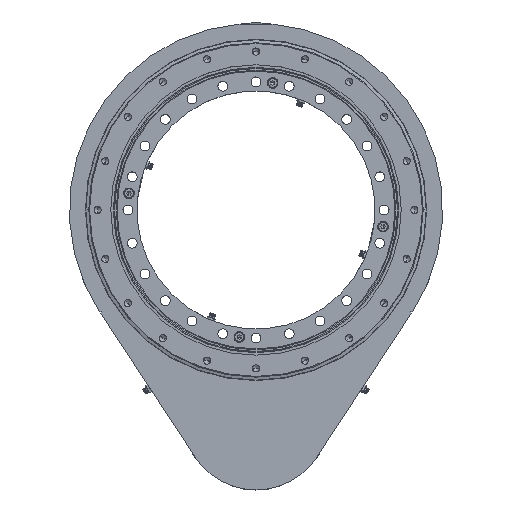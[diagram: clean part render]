
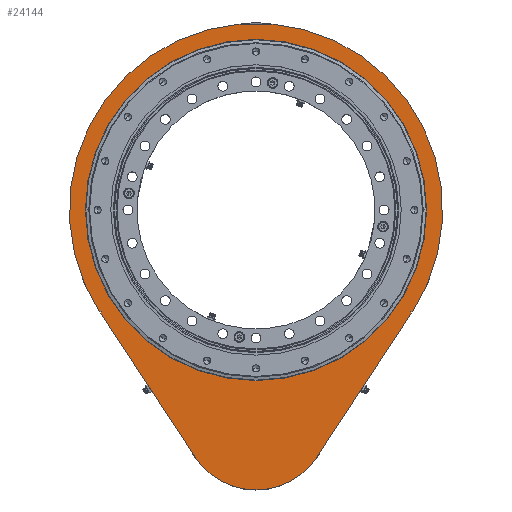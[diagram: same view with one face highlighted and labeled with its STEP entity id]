
A CAD part, top view. The second image highlights one B-rep face of the part: STEP entity #24144.
In plain terms, the highlighted planar face has unit normal (0, 0, 1).
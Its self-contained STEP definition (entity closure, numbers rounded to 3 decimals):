
#608=DIRECTION('',(0.978,0.207,0.));
#609=VECTOR('',#608,2.834);
#610=CARTESIAN_POINT('',(222.359,-145.981,82.));
#611=LINE('',#610,#609);
#615=DIRECTION('',(-0.203,0.979,0.));
#616=VECTOR('',#615,2.834);
#617=CARTESIAN_POINT('',(222.934,-148.756,82.));
#618=LINE('',#617,#616);
#622=DIRECTION('',(0.549,0.836,0.));
#623=VECTOR('',#622,246.274);
#624=CARTESIAN_POINT('',(87.774,-354.626,82.));
#625=LINE('',#624,#623);
#629=CARTESIAN_POINT('',(0.,-297.,82.));
#630=DIRECTION('',(0.,0.,1.));
#631=DIRECTION('',(-0.836,-0.549,0.));
#632=AXIS2_PLACEMENT_3D('',#629,#630,#631);
#637=DIRECTION('',(0.549,-0.836,0.));
#638=VECTOR('',#637,246.274);
#639=CARTESIAN_POINT('',(-222.934,-148.756,82.));
#640=LINE('',#639,#638);
#644=DIRECTION('',(-0.203,-0.979,0.));
#645=VECTOR('',#644,2.834);
#646=CARTESIAN_POINT('',(-222.359,-145.981,82.));
#647=LINE('',#646,#645);
#651=DIRECTION('',(0.978,-0.207,0.));
#652=VECTOR('',#651,2.834);
#653=CARTESIAN_POINT('',(-225.132,-145.395,82.));
#654=LINE('',#653,#652);
#658=CARTESIAN_POINT('',(0.,0.,82.));
#659=DIRECTION('',(0.,0.,1.));
#660=DIRECTION('',(0.84,-0.543,0.));
#661=AXIS2_PLACEMENT_3D('',#658,#659,#660);
#1961=CARTESIAN_POINT('',(0.,0.,82.));
#1962=DIRECTION('',(0.,0.,-1.));
#1963=DIRECTION('',(-1.,0.,0.));
#1964=AXIS2_PLACEMENT_3D('',#1961,#1962,#1963);
#1983=CARTESIAN_POINT('',(0.,0.,82.));
#1984=DIRECTION('',(0.,0.,1.));
#1985=DIRECTION('',(-1.,0.,0.));
#1986=AXIS2_PLACEMENT_3D('',#1983,#1984,#1985);
#21091=CARTESIAN_POINT('',(-225.132,-145.395,82.));
#21093=VERTEX_POINT('',#21091);
#21095=CARTESIAN_POINT('',(225.132,-145.395,82.));
#21097=VERTEX_POINT('',#21095);
#21109=CARTESIAN_POINT('',(-87.774,-354.626,82.));
#21110=CARTESIAN_POINT('',(87.774,-354.626,82.));
#21111=VERTEX_POINT('',#21109);
#21112=VERTEX_POINT('',#21110);
#21113=CARTESIAN_POINT('',(-222.934,-148.756,82.));
#21115=VERTEX_POINT('',#21113);
#21117=CARTESIAN_POINT('',(222.934,-148.756,82.));
#21119=VERTEX_POINT('',#21117);
#21122=CARTESIAN_POINT('',(222.359,-145.981,82.));
#21124=VERTEX_POINT('',#21122);
#21126=CARTESIAN_POINT('',(-222.359,-145.981,82.));
#21128=VERTEX_POINT('',#21126);
#22475=CARTESIAN_POINT('',(-245.,0.,82.));
#22477=VERTEX_POINT('',#22475);
#22481=CARTESIAN_POINT('',(245.,0.,82.));
#22483=VERTEX_POINT('',#22481);
#24117=CARTESIAN_POINT('',(0.,0.,82.));
#24118=DIRECTION('',(0.,0.,1.));
#24119=DIRECTION('',(1.,0.,0.));
#24120=AXIS2_PLACEMENT_3D('',#24117,#24118,#24119);
#24121=PLANE('',#24120);
#24123=ORIENTED_EDGE('',*,*,#24122,.F.);
#24125=ORIENTED_EDGE('',*,*,#24124,.F.);
#24127=ORIENTED_EDGE('',*,*,#24126,.F.);
#24129=ORIENTED_EDGE('',*,*,#24128,.F.);
#24131=ORIENTED_EDGE('',*,*,#24130,.F.);
#24132=ORIENTED_EDGE('',*,*,#24102,.F.);
#24133=ORIENTED_EDGE('',*,*,#24084,.F.);
#24135=ORIENTED_EDGE('',*,*,#24134,.F.);
#24136=EDGE_LOOP('',(#24123,#24125,#24127,#24129,#24131,#24132,#24133,#24135));
#24137=FACE_OUTER_BOUND('',#24136,.F.);
#24139=ORIENTED_EDGE('',*,*,#24138,.F.);
#24141=ORIENTED_EDGE('',*,*,#24140,.T.);
#24142=EDGE_LOOP('',(#24139,#24141));
#24143=FACE_BOUND('',#24142,.F.);
#633=CIRCLE('',#632,105.);
#662=CIRCLE('',#661,268.);
#1965=CIRCLE('',#1964,245.);
#1987=CIRCLE('',#1986,245.);
#24084=EDGE_CURVE('',#21093,#21128,#654,.T.);
#24102=EDGE_CURVE('',#21128,#21115,#647,.T.);
#24122=EDGE_CURVE('',#21124,#21097,#611,.T.);
#24124=EDGE_CURVE('',#21119,#21124,#618,.T.);
#24126=EDGE_CURVE('',#21112,#21119,#625,.T.);
#24128=EDGE_CURVE('',#21111,#21112,#633,.T.);
#24130=EDGE_CURVE('',#21115,#21111,#640,.T.);
#24134=EDGE_CURVE('',#21097,#21093,#662,.T.);
#24138=EDGE_CURVE('',#22477,#22483,#1965,.T.);
#24140=EDGE_CURVE('',#22477,#22483,#1987,.T.);
#24144=ADVANCED_FACE('',(#24137,#24143),#24121,.T.);
